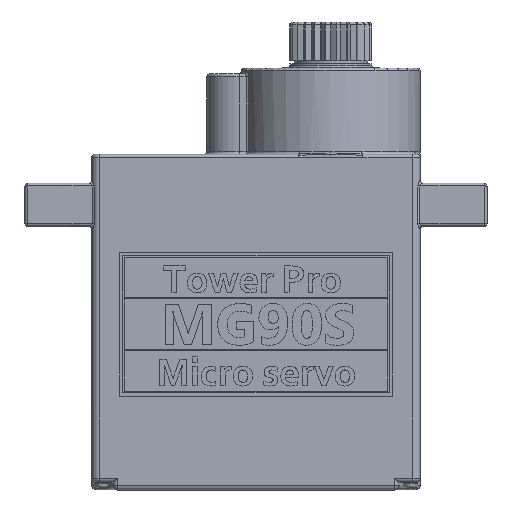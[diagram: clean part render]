
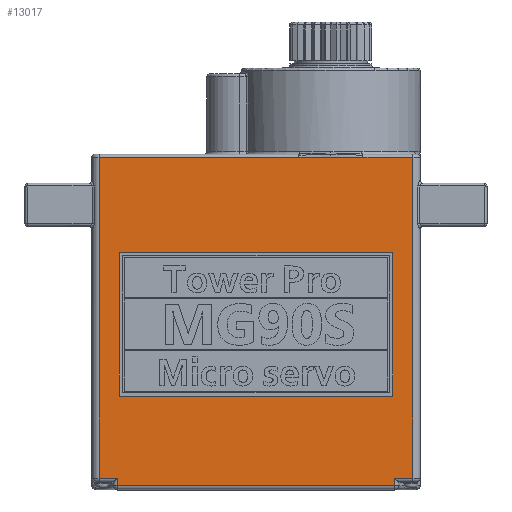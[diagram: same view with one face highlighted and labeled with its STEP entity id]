
A CAD part, top view. The second image highlights one B-rep face of the part: STEP entity #13017.
In plain terms, the highlighted planar face has unit normal (0, 0, 1).
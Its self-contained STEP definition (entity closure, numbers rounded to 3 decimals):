
#493=FACE_BOUND('',#1829,.T.);
#1126=FACE_OUTER_BOUND('',#1828,.T.);
#1828=EDGE_LOOP('',(#8887,#8888,#8889,#8890,#8891,#8892,#8893,#8894,#8895,
#8896,#8897));
#1829=EDGE_LOOP('',(#8898,#8899,#8900,#8901));
#2811=LINE('',#22237,#3749);
#2812=LINE('',#22239,#3750);
#2813=LINE('',#22241,#3751);
#2814=LINE('',#22243,#3752);
#2815=LINE('',#22245,#3753);
#2816=LINE('',#22247,#3754);
#2817=LINE('',#22249,#3755);
#2818=LINE('',#22251,#3756);
#2819=LINE('',#22253,#3757);
#2820=LINE('',#22255,#3758);
#2821=LINE('',#22256,#3759);
#2822=LINE('',#22259,#3760);
#2823=LINE('',#22261,#3761);
#2824=LINE('',#22263,#3762);
#2825=LINE('',#22264,#3763);
#3749=VECTOR('',#15219,22.3);
#3750=VECTOR('',#15220,3.473);
#3751=VECTOR('',#15221,10.);
#3752=VECTOR('',#15222,10.);
#3753=VECTOR('',#15223,13.873);
#3754=VECTOR('',#15224,22.3);
#3755=VECTOR('',#15225,1.275);
#3756=VECTOR('',#15226,0.5);
#3757=VECTOR('',#15227,19.25);
#3758=VECTOR('',#15228,0.5);
#3759=VECTOR('',#15229,1.275);
#3760=VECTOR('',#15230,10.);
#3761=VECTOR('',#15231,19.);
#3762=VECTOR('',#15232,10.);
#3763=VECTOR('',#15233,19.);
#5396=VERTEX_POINT('',#22235);
#5397=VERTEX_POINT('',#22236);
#5398=VERTEX_POINT('',#22238);
#5399=VERTEX_POINT('',#22240);
#5400=VERTEX_POINT('',#22242);
#5401=VERTEX_POINT('',#22244);
#5402=VERTEX_POINT('',#22246);
#5403=VERTEX_POINT('',#22248);
#5404=VERTEX_POINT('',#22250);
#5405=VERTEX_POINT('',#22252);
#5406=VERTEX_POINT('',#22254);
#5407=VERTEX_POINT('',#22257);
#5408=VERTEX_POINT('',#22258);
#5409=VERTEX_POINT('',#22260);
#5410=VERTEX_POINT('',#22262);
#6859=EDGE_CURVE('',#5396,#5397,#2811,.F.);
#6860=EDGE_CURVE('',#5397,#5398,#2812,.F.);
#6861=EDGE_CURVE('',#5399,#5398,#2813,.T.);
#6862=EDGE_CURVE('',#5400,#5399,#2814,.T.);
#6863=EDGE_CURVE('',#5400,#5401,#2815,.F.);
#6864=EDGE_CURVE('',#5401,#5402,#2816,.T.);
#6865=EDGE_CURVE('',#5402,#5403,#2817,.T.);
#6866=EDGE_CURVE('',#5403,#5404,#2818,.F.);
#6867=EDGE_CURVE('',#5404,#5405,#2819,.F.);
#6868=EDGE_CURVE('',#5405,#5406,#2820,.T.);
#6869=EDGE_CURVE('',#5406,#5396,#2821,.T.);
#6870=EDGE_CURVE('',#5407,#5408,#2822,.T.);
#6871=EDGE_CURVE('',#5409,#5407,#2823,.T.);
#6872=EDGE_CURVE('',#5410,#5409,#2824,.T.);
#6873=EDGE_CURVE('',#5408,#5410,#2825,.T.);
#8887=ORIENTED_EDGE('',*,*,#6859,.T.);
#8888=ORIENTED_EDGE('',*,*,#6860,.T.);
#8889=ORIENTED_EDGE('',*,*,#6861,.F.);
#8890=ORIENTED_EDGE('',*,*,#6862,.F.);
#8891=ORIENTED_EDGE('',*,*,#6863,.T.);
#8892=ORIENTED_EDGE('',*,*,#6864,.T.);
#8893=ORIENTED_EDGE('',*,*,#6865,.T.);
#8894=ORIENTED_EDGE('',*,*,#6866,.T.);
#8895=ORIENTED_EDGE('',*,*,#6867,.T.);
#8896=ORIENTED_EDGE('',*,*,#6868,.T.);
#8897=ORIENTED_EDGE('',*,*,#6869,.T.);
#8898=ORIENTED_EDGE('',*,*,#6870,.F.);
#8899=ORIENTED_EDGE('',*,*,#6871,.F.);
#8900=ORIENTED_EDGE('',*,*,#6872,.F.);
#8901=ORIENTED_EDGE('',*,*,#6873,.F.);
#12335=PLANE('',#13707);
#13017=ADVANCED_FACE('',(#1126,#493),#12335,.F.);
#13707=AXIS2_PLACEMENT_3D('',#22234,#15217,#15218);
#15217=DIRECTION('center_axis',(0.,0.,-1.));
#15218=DIRECTION('ref_axis',(-1.,0.,0.));
#15219=DIRECTION('',(0.,-1.,0.));
#15220=DIRECTION('',(1.,0.,0.));
#15221=DIRECTION('',(1.,0.,0.));
#15222=DIRECTION('',(1.,0.,0.));
#15223=DIRECTION('',(1.,0.,0.));
#15224=DIRECTION('',(0.,-1.,0.));
#15225=DIRECTION('',(1.,0.,0.));
#15226=DIRECTION('',(0.,1.,0.));
#15227=DIRECTION('',(-1.,0.,0.));
#15228=DIRECTION('',(0.,1.,0.));
#15229=DIRECTION('',(1.,0.,0.));
#15230=DIRECTION('',(0.,1.,0.));
#15231=DIRECTION('',(1.,0.,0.));
#15232=DIRECTION('',(0.,-1.,0.));
#15233=DIRECTION('',(-1.,0.,0.));
#22234=CARTESIAN_POINT('Origin',(-11.4,22.8,6.2));
#22235=CARTESIAN_POINT('',(10.9,0.3,6.2));
#22236=CARTESIAN_POINT('',(10.9,22.6,6.2));
#22237=CARTESIAN_POINT('',(10.9,22.6,6.2));
#22238=CARTESIAN_POINT('',(7.427,22.6,6.2));
#22239=CARTESIAN_POINT('',(7.427,22.6,6.2));
#22240=CARTESIAN_POINT('',(5.2,22.6,6.2));
#22241=CARTESIAN_POINT('',(5.2,22.6,6.2));
#22242=CARTESIAN_POINT('',(2.973,22.6,6.2));
#22243=CARTESIAN_POINT('',(2.973,22.6,6.2));
#22244=CARTESIAN_POINT('',(-10.9,22.6,6.2));
#22245=CARTESIAN_POINT('',(-10.9,22.6,6.2));
#22246=CARTESIAN_POINT('',(-10.9,0.3,6.2));
#22247=CARTESIAN_POINT('',(-10.9,22.6,6.2));
#22248=CARTESIAN_POINT('',(-9.625,0.3,6.2));
#22249=CARTESIAN_POINT('',(-10.9,0.3,6.2));
#22250=CARTESIAN_POINT('',(-9.625,-0.2,6.2));
#22251=CARTESIAN_POINT('',(-9.625,-0.2,6.2));
#22252=CARTESIAN_POINT('',(9.625,-0.2,6.2));
#22253=CARTESIAN_POINT('',(9.625,-0.2,6.2));
#22254=CARTESIAN_POINT('',(9.625,0.3,6.2));
#22255=CARTESIAN_POINT('',(9.625,-0.2,6.2));
#22256=CARTESIAN_POINT('',(9.625,0.3,6.2));
#22257=CARTESIAN_POINT('',(9.5,6.,6.2));
#22258=CARTESIAN_POINT('',(9.5,16.,6.2));
#22259=CARTESIAN_POINT('',(9.5,6.,6.2));
#22260=CARTESIAN_POINT('',(-9.5,6.,6.2));
#22261=CARTESIAN_POINT('',(-9.5,6.,6.2));
#22262=CARTESIAN_POINT('',(-9.5,16.,6.2));
#22263=CARTESIAN_POINT('',(-9.5,16.,6.2));
#22264=CARTESIAN_POINT('',(9.5,16.,6.2));
